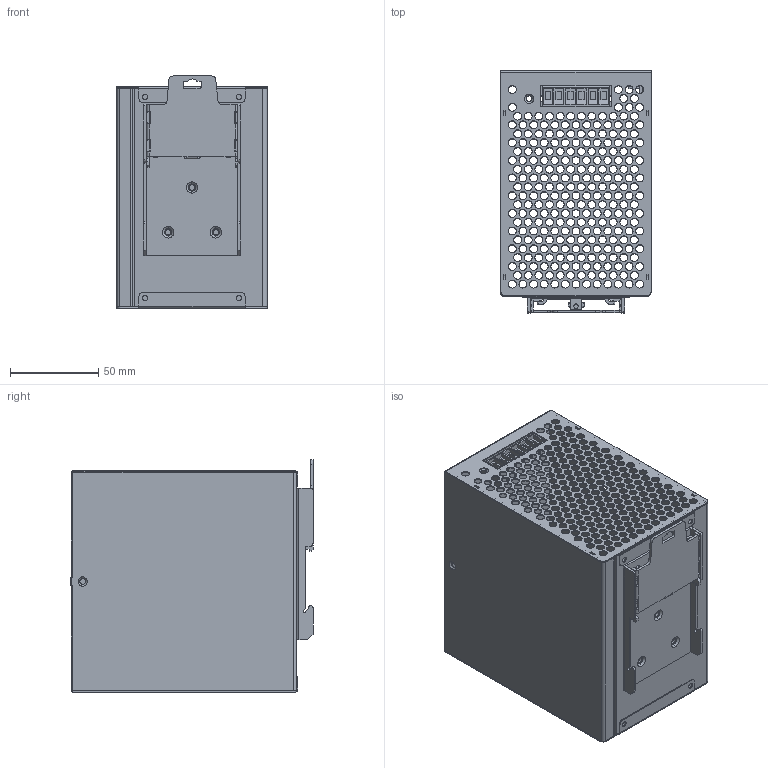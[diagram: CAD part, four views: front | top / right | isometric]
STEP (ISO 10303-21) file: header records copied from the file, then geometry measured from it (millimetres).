
FILE_DESCRIPTION (( 'STEP AP214' ), '1' );
FILE_NAME ('480W开关电源圆孔20240407.STEP', '2024-04-08T03:21:29', ( '微软用户' ), ( '微软中国' ), 'SwSTEP 2.0', 'SolidWorks 2020', '' );
FILE_SCHEMA (( 'AUTOMOTIVE_DESIGN' ));
Length unit declared in the file: millimetre
Products named in the file (10): 480W-A啣20240407; 240W______.stp.STEP.STEP; 240W______.stp-0.STEP.STEP; 3弇傷赽-480W; 480W埴謂厙欶20240407; 湮縐諶.STEP; 楷嫖; 480W羲壽萇埭埴謂20240407; 6弇傷赽; 480W-B啣20240407
Assembly tree (9 placements, depth 3):
  480W羲壽萇埭埴謂20240407
    480W-A啣20240407
    480W-B啣20240407
    480W埴謂厙欶20240407
    楷嫖
    湮縐諶.STEP
      240W______.stp.STEP.STEP
      240W______.stp-0.STEP.STEP
    6弇傷赽
    3弇傷赽-480W
Bounding box: 85 x 136.9 x 131.25 mm (x, y, z)
Volume: 113061.3 mm3; surface area: 180462.4 mm2
Topology: 8 solids, 8 shells, 2358 faces, 6774 edges, 4417 vertices
Faces by surface type: cylinder 1494, plane 822, cone 22, bspline 16, sphere 2, torus 2
Entity records: 81196 total; most frequent: DIRECTION 14460, CARTESIAN_POINT 13970, ORIENTED_EDGE 13540, EDGE_CURVE 6770, AXIS2_PLACEMENT_3D 5407, VERTEX_POINT 4415, VECTOR 3646, LINE 3646
